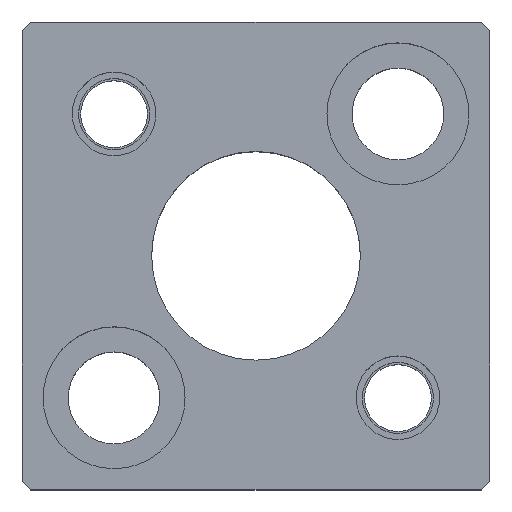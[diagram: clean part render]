
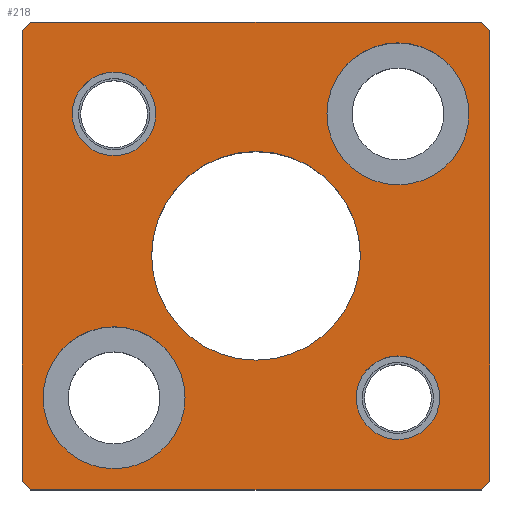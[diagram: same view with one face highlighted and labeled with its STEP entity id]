
A CAD part, top view. The second image highlights one B-rep face of the part: STEP entity #218.
In plain terms, the highlighted planar face has unit normal (0, 0, 1).
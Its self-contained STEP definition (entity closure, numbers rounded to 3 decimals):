
#104=FACE_BOUND('',#328,.T.);
#105=FACE_BOUND('',#329,.T.);
#106=FACE_BOUND('',#330,.T.);
#107=FACE_BOUND('',#331,.T.);
#108=FACE_BOUND('',#332,.T.);
#109=FACE_BOUND('',#333,.T.);
#155=CIRCLE('',#949,8.5);
#157=CIRCLE('',#952,8.5);
#159=CIRCLE('',#956,8.5);
#161=CIRCLE('',#959,8.5);
#163=CIRCLE('',#963,5.);
#164=CIRCLE('',#964,5.);
#165=CIRCLE('',#965,5.);
#166=CIRCLE('',#966,5.);
#167=CIRCLE('',#967,12.5);
#168=CIRCLE('',#968,12.5);
#218=ADVANCED_FACE('',(#104,#105,#106,#107,#108,#109),#257,.T.);
#257=PLANE('',#969);
#328=EDGE_LOOP('',(#467,#468,#469,#470,#471,#472,#473,#474));
#329=EDGE_LOOP('',(#475,#476));
#330=EDGE_LOOP('',(#477,#478));
#331=EDGE_LOOP('',(#479,#480));
#332=EDGE_LOOP('',(#481,#482));
#333=EDGE_LOOP('',(#483,#484));
#467=ORIENTED_EDGE('',*,*,#692,.T.);
#468=ORIENTED_EDGE('',*,*,#689,.T.);
#469=ORIENTED_EDGE('',*,*,#707,.T.);
#470=ORIENTED_EDGE('',*,*,#704,.T.);
#471=ORIENTED_EDGE('',*,*,#701,.T.);
#472=ORIENTED_EDGE('',*,*,#685,.T.);
#473=ORIENTED_EDGE('',*,*,#682,.T.);
#474=ORIENTED_EDGE('',*,*,#678,.T.);
#475=ORIENTED_EDGE('',*,*,#736,.F.);
#476=ORIENTED_EDGE('',*,*,#737,.F.);
#477=ORIENTED_EDGE('',*,*,#738,.F.);
#478=ORIENTED_EDGE('',*,*,#739,.F.);
#479=ORIENTED_EDGE('',*,*,#734,.F.);
#480=ORIENTED_EDGE('',*,*,#730,.F.);
#481=ORIENTED_EDGE('',*,*,#728,.F.);
#482=ORIENTED_EDGE('',*,*,#724,.F.);
#483=ORIENTED_EDGE('',*,*,#740,.T.);
#484=ORIENTED_EDGE('',*,*,#741,.T.);
#601=VERTEX_POINT('',#1286);
#602=VERTEX_POINT('',#1288);
#605=VERTEX_POINT('',#1296);
#607=VERTEX_POINT('',#1302);
#610=VERTEX_POINT('',#1309);
#611=VERTEX_POINT('',#1311);
#618=VERTEX_POINT('',#1334);
#620=VERTEX_POINT('',#1340);
#631=VERTEX_POINT('',#1379);
#632=VERTEX_POINT('',#1380);
#635=VERTEX_POINT('',#1392);
#636=VERTEX_POINT('',#1393);
#639=VERTEX_POINT('',#1405);
#640=VERTEX_POINT('',#1406);
#641=VERTEX_POINT('',#1409);
#642=VERTEX_POINT('',#1410);
#643=VERTEX_POINT('',#1413);
#644=VERTEX_POINT('',#1414);
#678=EDGE_CURVE('',#602,#601,#794,.T.);
#682=EDGE_CURVE('',#605,#602,#798,.T.);
#685=EDGE_CURVE('',#607,#605,#801,.T.);
#689=EDGE_CURVE('',#611,#610,#805,.T.);
#692=EDGE_CURVE('',#601,#611,#808,.T.);
#701=EDGE_CURVE('',#618,#607,#817,.T.);
#704=EDGE_CURVE('',#620,#618,#820,.T.);
#707=EDGE_CURVE('',#610,#620,#823,.T.);
#724=EDGE_CURVE('',#631,#632,#155,.T.);
#728=EDGE_CURVE('',#632,#631,#157,.T.);
#730=EDGE_CURVE('',#635,#636,#159,.T.);
#734=EDGE_CURVE('',#636,#635,#161,.T.);
#736=EDGE_CURVE('',#639,#640,#163,.T.);
#737=EDGE_CURVE('',#640,#639,#164,.T.);
#738=EDGE_CURVE('',#641,#642,#165,.T.);
#739=EDGE_CURVE('',#642,#641,#166,.T.);
#740=EDGE_CURVE('',#643,#644,#167,.T.);
#741=EDGE_CURVE('',#644,#643,#168,.T.);
#794=LINE('',#1287,#860);
#798=LINE('',#1295,#864);
#801=LINE('',#1301,#867);
#805=LINE('',#1310,#871);
#808=LINE('',#1316,#874);
#817=LINE('',#1333,#883);
#820=LINE('',#1339,#886);
#823=LINE('',#1345,#889);
#860=VECTOR('',#1025,1.);
#864=VECTOR('',#1031,1.);
#867=VECTOR('',#1036,1.);
#871=VECTOR('',#1042,1.);
#874=VECTOR('',#1047,1.);
#883=VECTOR('',#1062,1.);
#886=VECTOR('',#1067,1.);
#889=VECTOR('',#1072,1.);
#949=AXIS2_PLACEMENT_3D('',#1378,#1111,#1112);
#952=AXIS2_PLACEMENT_3D('',#1387,#1119,#1120);
#956=AXIS2_PLACEMENT_3D('',#1391,#1127,#1128);
#959=AXIS2_PLACEMENT_3D('',#1400,#1135,#1136);
#963=AXIS2_PLACEMENT_3D('',#1404,#1143,#1144);
#964=AXIS2_PLACEMENT_3D('',#1407,#1145,#1146);
#965=AXIS2_PLACEMENT_3D('',#1408,#1147,#1148);
#966=AXIS2_PLACEMENT_3D('',#1411,#1149,#1150);
#967=AXIS2_PLACEMENT_3D('',#1412,#1151,#1152);
#968=AXIS2_PLACEMENT_3D('',#1415,#1153,#1154);
#969=AXIS2_PLACEMENT_3D('',#1416,#1155,#1156);
#1025=DIRECTION('',(1.,0.,0.));
#1031=DIRECTION('',(0.707,-0.707,0.));
#1036=DIRECTION('',(0.,-1.,0.));
#1042=DIRECTION('',(0.,1.,0.));
#1047=DIRECTION('',(0.707,0.707,0.));
#1062=DIRECTION('',(-0.707,-0.707,0.));
#1067=DIRECTION('',(-1.,0.,0.));
#1072=DIRECTION('',(-0.707,0.707,0.));
#1111=DIRECTION('',(0.,0.,1.));
#1112=DIRECTION('',(-1.,0.,0.));
#1119=DIRECTION('',(0.,0.,1.));
#1120=DIRECTION('',(1.,0.,0.));
#1127=DIRECTION('',(0.,0.,1.));
#1128=DIRECTION('',(-1.,0.,0.));
#1135=DIRECTION('',(0.,0.,1.));
#1136=DIRECTION('',(1.,0.,0.));
#1143=DIRECTION('',(0.,0.,1.));
#1144=DIRECTION('',(1.,0.,0.));
#1145=DIRECTION('',(0.,0.,1.));
#1146=DIRECTION('',(-1.,0.,0.));
#1147=DIRECTION('',(0.,0.,1.));
#1148=DIRECTION('',(1.,0.,0.));
#1149=DIRECTION('',(0.,0.,1.));
#1150=DIRECTION('',(-1.,0.,0.));
#1151=DIRECTION('',(0.,0.,-1.));
#1152=DIRECTION('',(-1.,0.,0.));
#1153=DIRECTION('',(0.,0.,-1.));
#1154=DIRECTION('',(1.,0.,0.));
#1155=DIRECTION('',(0.,0.,1.));
#1156=DIRECTION('',(-1.,0.,0.));
#1286=CARTESIAN_POINT('',(27.,-28.,30.));
#1287=CARTESIAN_POINT('',(-27.,-28.,30.));
#1288=CARTESIAN_POINT('',(-27.,-28.,30.));
#1295=CARTESIAN_POINT('',(-27.,-28.,30.));
#1296=CARTESIAN_POINT('',(-28.,-27.,30.));
#1301=CARTESIAN_POINT('',(-28.,27.,30.));
#1302=CARTESIAN_POINT('',(-28.,27.,30.));
#1309=CARTESIAN_POINT('',(28.,27.,30.));
#1310=CARTESIAN_POINT('',(28.,27.,30.));
#1311=CARTESIAN_POINT('',(28.,-27.,30.));
#1316=CARTESIAN_POINT('',(28.,-27.,30.));
#1333=CARTESIAN_POINT('',(-28.,27.,30.));
#1334=CARTESIAN_POINT('',(-27.,28.,30.));
#1339=CARTESIAN_POINT('',(-27.,28.,30.));
#1340=CARTESIAN_POINT('',(27.,28.,30.));
#1345=CARTESIAN_POINT('',(27.,28.,30.));
#1378=CARTESIAN_POINT('',(-17.,-17.,30.));
#1379=CARTESIAN_POINT('',(-17.,-25.5,30.));
#1380=CARTESIAN_POINT('',(-17.,-8.5,30.));
#1387=CARTESIAN_POINT('',(-17.,-17.,30.));
#1391=CARTESIAN_POINT('',(17.,17.,30.));
#1392=CARTESIAN_POINT('',(17.,8.5,30.));
#1393=CARTESIAN_POINT('',(17.,25.5,30.));
#1400=CARTESIAN_POINT('',(17.,17.,30.));
#1404=CARTESIAN_POINT('',(-17.,17.,30.));
#1405=CARTESIAN_POINT('',(-17.,22.,30.));
#1406=CARTESIAN_POINT('',(-17.,12.,30.));
#1407=CARTESIAN_POINT('',(-17.,17.,30.));
#1408=CARTESIAN_POINT('',(17.,-17.,30.));
#1409=CARTESIAN_POINT('',(17.,-12.,30.));
#1410=CARTESIAN_POINT('',(17.,-22.,30.));
#1411=CARTESIAN_POINT('',(17.,-17.,30.));
#1412=CARTESIAN_POINT('',(0.,0.,30.));
#1413=CARTESIAN_POINT('',(0.,12.5,30.));
#1414=CARTESIAN_POINT('',(0.,-12.5,30.));
#1415=CARTESIAN_POINT('',(0.,0.,30.));
#1416=CARTESIAN_POINT('',(27.,-28.,30.));
